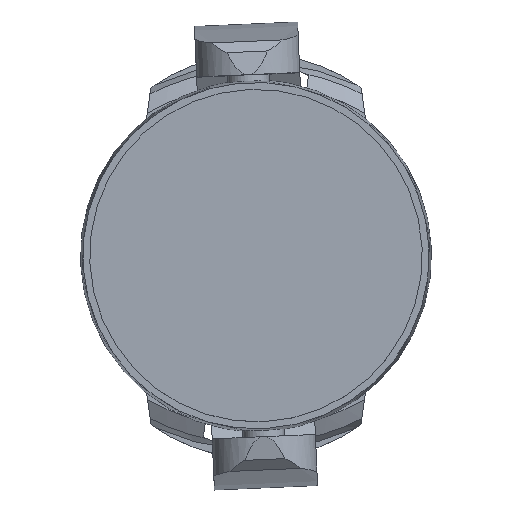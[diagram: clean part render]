
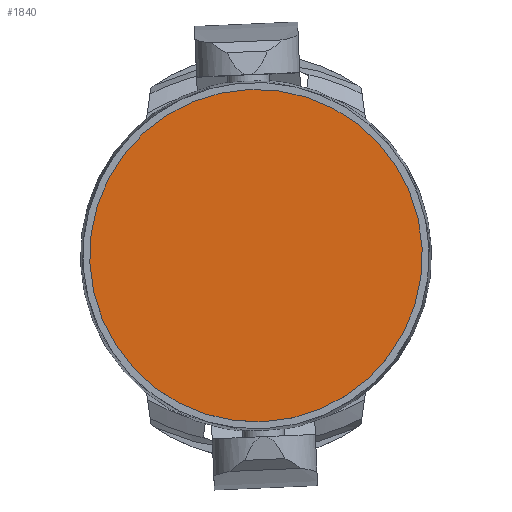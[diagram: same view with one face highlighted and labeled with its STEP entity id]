
A CAD part, top view. The second image highlights one B-rep face of the part: STEP entity #1840.
In plain terms, the highlighted planar face has unit normal (0, 0, 1) as drawn and (-1, 0, 0) by its records, which use the part's own axes.
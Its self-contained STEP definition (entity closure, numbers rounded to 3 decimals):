
#815=ORIENTED_EDGE('',*,*,#1132,.T.);
#1132=EDGE_CURVE('',#1325,#1325,#1412,.T.);
#1325=VERTEX_POINT('',#3583);
#1412=CIRCLE('',#2099,182.735);
#1537=EDGE_LOOP('',(#815));
#1673=FACE_BOUND('',#1537,.T.);
#1734=PLANE('',#2098);
#1840=ADVANCED_FACE('',(#1673),#1734,.T.);
#2098=AXIS2_PLACEMENT_3D('',#3581,#2591,#2592);
#2099=AXIS2_PLACEMENT_3D('',#3582,#2593,#2594);
#2591=DIRECTION('',(-1.,0.,0.));
#2592=DIRECTION('',(0.,0.,1.));
#2593=DIRECTION('',(-1.,0.,0.));
#2594=DIRECTION('',(0.,0.,1.));
#3581=CARTESIAN_POINT('',(-112.494,0.,383.651));
#3582=CARTESIAN_POINT('',(-112.494,0.,383.651));
#3583=CARTESIAN_POINT('',(-112.494,0.,566.386));
